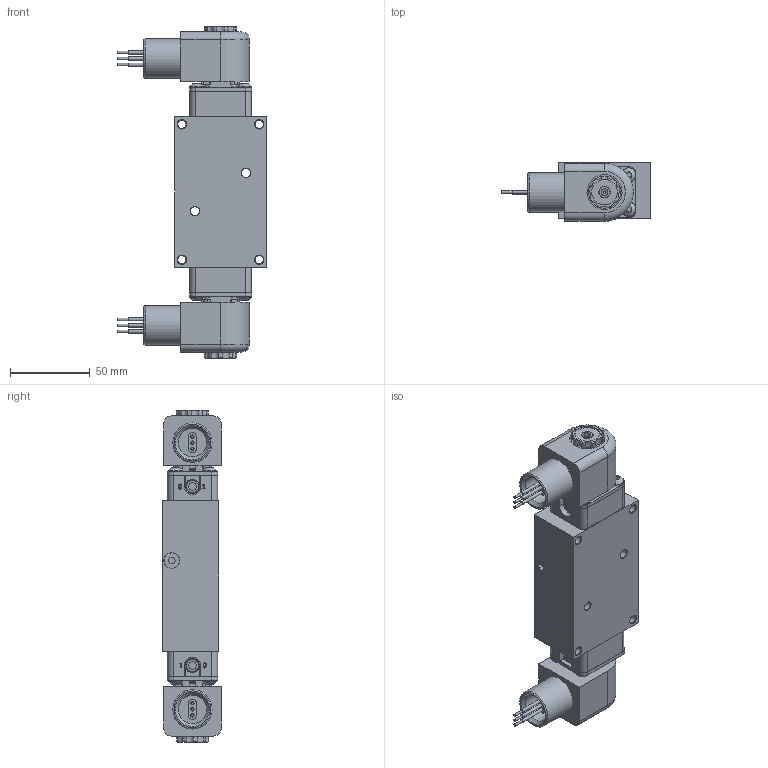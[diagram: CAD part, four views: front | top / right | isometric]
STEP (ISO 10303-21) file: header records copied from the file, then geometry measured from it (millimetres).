
FILE_DESCRIPTION(/* description */ (''),/* implementation_level */ '2;1');
FILE_NAME(/* name */ 'D:\Website Files\stp\Valves\Standard\ESS\ZNSS2X.stp',/* time_stamp */ '2015-03-13T23:51:05-04:00',/* author */ ('RMcKenna'),/* organization */ (''),/* preprocessor_version */ 'ST-DEVELOPER v15.6',/* originating_system */ 'Autodesk Inventor 2015',/* authorisation */ '');
FILE_SCHEMA (('AUTOMOTIVE_DESIGN { 1 0 10303 214 3 1 1 }'));
Products named in the file (1): Part36
Bounding box: 92.94 x 36.57 x 208.17 mm (x, y, z)
Volume: 298932.4 mm3; surface area: 96022.2 mm2
Topology: 1 solids, 23 shells, 1969 faces, 4814 edges, 3062 vertices
Faces by surface type: plane 855, cylinder 605, cone 282, torus 147, bspline 72, sphere 8
Full cylindrical faces by diameter (mm): 1.3 x2, 1.397 x2, 1.5 x4, 1.524 x6, 2.007 x4, 2.032 x22, 2.35 x8, 2.388 x2, 2.8 x2, 2.819 x2, 3 x8, 3.048 x1, 3.175 x1, 3.4 x2, 3.683 x10, 4.191 x4, 4.305 x2, 4.826 x8, 4.953 x2, 5.15 x8, 5.156 x12, 5.5 x2, 5.512 x1, 5.556 x2, 6.553 x2, 6.731 x1, 6.9 x2, 7.087 x3, 7.144 x1, 7.188 x2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
Entity records: 60676 total; most frequent: CARTESIAN_POINT 14177, DIRECTION 9439, ORIENTED_EDGE 8630, EDGE_CURVE 4311, AXIS2_PLACEMENT_3D 3723, VERTEX_POINT 2911, EDGE_LOOP 2566, LINE 1993
